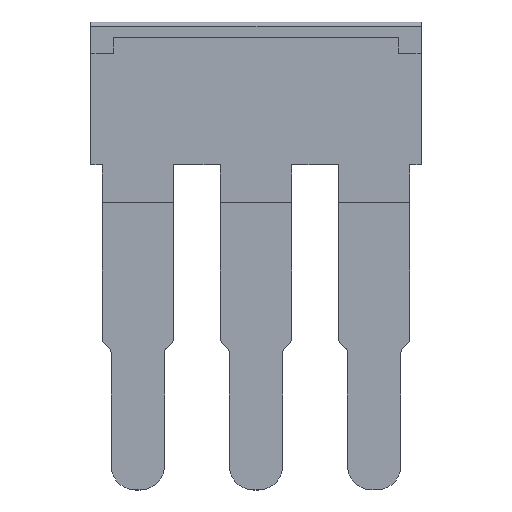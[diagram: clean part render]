
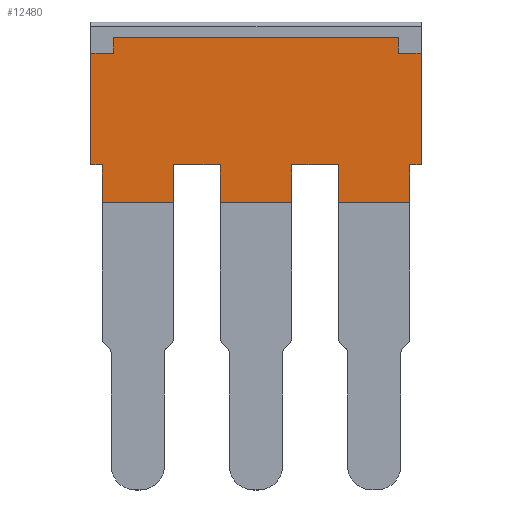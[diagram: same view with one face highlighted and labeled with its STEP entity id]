
A CAD part, top view. The second image highlights one B-rep face of the part: STEP entity #12480.
In plain terms, the highlighted planar face has unit normal (0, 0, 1) as drawn and (0, -1, 0) by its records, which use the part's own axes.
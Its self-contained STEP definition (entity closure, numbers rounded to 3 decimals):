
#1860=CARTESIAN_POINT('',(-31.85,-0.9,
-15.277));
#1870=VERTEX_POINT('',#1860);
#1900=CARTESIAN_POINT('',(-31.85,-0.9,0.));
#1910=DIRECTION('',(0.,0.,1.));
#1920=VECTOR('',#1910,1.);
#1930=LINE('',#1900,#1920);
#1940=CARTESIAN_POINT('',(-31.85,-0.9,
-20.277));
#1950=VERTEX_POINT('',#1940);
#1960=EDGE_CURVE('',#1950,#1870,#1930,.T.);
#5480=CARTESIAN_POINT('',(-28.15,-0.9,
-15.277));
#5490=VERTEX_POINT('',#5480);
#5520=CARTESIAN_POINT('',(-28.15,-0.9,0.));
#5530=DIRECTION('',(0.,0.,-1.));
#5540=VECTOR('',#5530,1.);
#5550=LINE('',#5520,#5540);
#5560=CARTESIAN_POINT('',(-28.15,-0.9,
-13.577));
#5570=VERTEX_POINT('',#5560);
#5580=EDGE_CURVE('',#5570,#5490,#5550,.T.);
#5970=CARTESIAN_POINT('',(-30.85,-0.9,
-20.277));
#5980=VERTEX_POINT('',#5970);
#6030=CARTESIAN_POINT('',(-30.85,-0.9,0.));
#6040=DIRECTION('',(0.,0.,-1.));
#6050=VECTOR('',#6040,1.);
#6060=LINE('',#6030,#6050);
#6070=CARTESIAN_POINT('',(-30.85,-0.9,
-20.977));
#6080=VERTEX_POINT('',#6070);
#6090=EDGE_CURVE('',#5980,#6080,#6060,.T.);
#7000=CARTESIAN_POINT('',(-18.05,-0.9,
-20.277));
#7010=VERTEX_POINT('',#7000);
#7060=CARTESIAN_POINT('',(-37.1,-0.9,
-20.277));
#7070=DIRECTION('',(-1.,0.,0.));
#7080=VECTOR('',#7070,1.);
#7090=LINE('',#7060,#7080);
#7100=CARTESIAN_POINT('',(-17.05,-0.9,
-20.277));
#7110=VERTEX_POINT('',#7100);
#7120=EDGE_CURVE('',#7110,#7010,#7090,.T.);
#7470=CARTESIAN_POINT('',(-31.35,-0.9,
-15.277));
#7480=VERTEX_POINT('',#7470);
#7680=CARTESIAN_POINT('',(-31.35,-0.9,
-13.577));
#7690=VERTEX_POINT('',#7680);
#7720=CARTESIAN_POINT('',(-31.35,-0.9,0.));
#7730=DIRECTION('',(0.,0.,1.));
#7740=VECTOR('',#7730,1.);
#7750=LINE('',#7720,#7740);
#7760=EDGE_CURVE('',#7480,#7690,#7750,.T.);
#8850=CARTESIAN_POINT('',(-22.85,-0.9,
-13.577));
#8860=VERTEX_POINT('',#8850);
#8910=CARTESIAN_POINT('',(-37.1,-0.9,
-13.577));
#8920=DIRECTION('',(-1.,0.,0.));
#8930=VECTOR('',#8920,1.);
#8940=LINE('',#8910,#8930);
#8950=CARTESIAN_POINT('',(-26.05,-0.9,
-13.577));
#8960=VERTEX_POINT('',#8950);
#8970=EDGE_CURVE('',#8860,#8960,#8940,.T.);
#9240=CARTESIAN_POINT('',(0.,-0.9,-13.577));
#9250=DIRECTION('',(-1.,0.,0.));
#9260=VECTOR('',#9250,1.);
#9270=LINE('',#9240,#9260);
#9280=EDGE_CURVE('',#5570,#7690,#9270,.T.);
#9540=CARTESIAN_POINT('',(0.,-0.9,-20.277));
#9550=DIRECTION('',(-1.,0.,0.));
#9560=VECTOR('',#9550,1.);
#9570=LINE('',#9540,#9560);
#9580=EDGE_CURVE('',#5980,#1950,#9570,.T.);
#10630=CARTESIAN_POINT('',(0.,-0.9,-15.277));
#10640=DIRECTION('',(1.,0.,0.));
#10650=VECTOR('',#10640,1.);
#10660=LINE('',#10630,#10650);
#10670=EDGE_CURVE('',#1870,#7480,#10660,.T.);
#11500=CARTESIAN_POINT('',(10.65,-0.9,-14.277));
#11510=DIRECTION('',(0.,1.,0.));
#11520=DIRECTION('',(0.,0.,1.));
#11530=AXIS2_PLACEMENT_3D('',#11500,#11510,#11520);
#11540=PLANE('',#11530);
#11550=ORIENTED_EDGE('',*,*,#6090,.T.);
#11560=ORIENTED_EDGE('',*,*,#9580,.F.);
#11570=ORIENTED_EDGE('',*,*,#1960,.F.);
#11580=ORIENTED_EDGE('',*,*,#10670,.F.);
#11590=ORIENTED_EDGE('',*,*,#7760,.F.);
#11600=ORIENTED_EDGE('',*,*,#9280,.T.);
#11610=ORIENTED_EDGE('',*,*,#5580,.F.);
#11620=CARTESIAN_POINT('',(0.,-0.9,-15.277));
#11630=DIRECTION('',(1.,0.,0.));
#11640=VECTOR('',#11630,1.);
#11650=LINE('',#11620,#11640);
#11660=CARTESIAN_POINT('',(-26.05,-0.9,
-15.277));
#11670=VERTEX_POINT('',#11660);
#11680=EDGE_CURVE('',#5490,#11670,#11650,.T.);
#11690=ORIENTED_EDGE('',*,*,#11680,.F.);
#11700=CARTESIAN_POINT('',(-26.05,-0.9,
0.));
#11710=DIRECTION('',(0.,0.,1.));
#11720=VECTOR('',#11710,1.);
#11730=LINE('',#11700,#11720);
#11740=EDGE_CURVE('',#11670,#8960,#11730,.T.);
#11750=ORIENTED_EDGE('',*,*,#11740,.F.);
#11760=ORIENTED_EDGE('',*,*,#8970,.T.);
#11770=CARTESIAN_POINT('',(-22.85,-0.9,
0.));
#11780=DIRECTION('',(0.,0.,-1.));
#11790=VECTOR('',#11780,1.);
#11800=LINE('',#11770,#11790);
#11810=CARTESIAN_POINT('',(-22.85,-0.9,
-15.277));
#11820=VERTEX_POINT('',#11810);
#11830=EDGE_CURVE('',#8860,#11820,#11800,.T.);
#11840=ORIENTED_EDGE('',*,*,#11830,.F.);
#11850=CARTESIAN_POINT('',(-37.1,-0.9,
-15.277));
#11860=DIRECTION('',(1.,0.,0.));
#11870=VECTOR('',#11860,1.);
#11880=LINE('',#11850,#11870);
#11890=CARTESIAN_POINT('',(-20.75,-0.9,
-15.277));
#11900=VERTEX_POINT('',#11890);
#11910=EDGE_CURVE('',#11820,#11900,#11880,.T.);
#11920=ORIENTED_EDGE('',*,*,#11910,.F.);
#11930=CARTESIAN_POINT('',(-20.75,-0.9,
0.));
#11940=DIRECTION('',(0.,0.,1.));
#11950=VECTOR('',#11940,1.);
#11960=LINE('',#11930,#11950);
#11970=CARTESIAN_POINT('',(-20.75,-0.9,
-13.577));
#11980=VERTEX_POINT('',#11970);
#11990=EDGE_CURVE('',#11900,#11980,#11960,.T.);
#12000=ORIENTED_EDGE('',*,*,#11990,.F.);
#12010=CARTESIAN_POINT('',(-37.1,-0.9,
-13.577));
#12020=DIRECTION('',(-1.,0.,0.));
#12030=VECTOR('',#12020,1.);
#12040=LINE('',#12010,#12030);
#12050=CARTESIAN_POINT('',(-17.55,-0.9,
-13.577));
#12060=VERTEX_POINT('',#12050);
#12070=EDGE_CURVE('',#12060,#11980,#12040,.T.);
#12080=ORIENTED_EDGE('',*,*,#12070,.T.);
#12090=CARTESIAN_POINT('',(-17.55,-0.9,
0.));
#12100=DIRECTION('',(0.,0.,-1.));
#12110=VECTOR('',#12100,1.);
#12120=LINE('',#12090,#12110);
#12130=CARTESIAN_POINT('',(-17.55,-0.9,
-15.277));
#12140=VERTEX_POINT('',#12130);
#12150=EDGE_CURVE('',#12060,#12140,#12120,.T.);
#12160=ORIENTED_EDGE('',*,*,#12150,.F.);
#12170=CARTESIAN_POINT('',(-37.1,-0.9,
-15.277));
#12180=DIRECTION('',(1.,0.,0.));
#12190=VECTOR('',#12180,1.);
#12200=LINE('',#12170,#12190);
#12210=CARTESIAN_POINT('',(-17.05,-0.9,
-15.277));
#12220=VERTEX_POINT('',#12210);
#12230=EDGE_CURVE('',#12140,#12220,#12200,.T.);
#12240=ORIENTED_EDGE('',*,*,#12230,.F.);
#12250=CARTESIAN_POINT('',(-17.05,-0.9,
0.));
#12260=DIRECTION('',(0.,0.,1.));
#12270=VECTOR('',#12260,1.);
#12280=LINE('',#12250,#12270);
#12290=EDGE_CURVE('',#7110,#12220,#12280,.T.);
#12300=ORIENTED_EDGE('',*,*,#12290,.T.);
#12310=ORIENTED_EDGE('',*,*,#7120,.F.);
#12320=CARTESIAN_POINT('',(-18.05,-0.9,
0.));
#12330=DIRECTION('',(0.,0.,-1.));
#12340=VECTOR('',#12330,1.);
#12350=LINE('',#12320,#12340);
#12360=CARTESIAN_POINT('',(-18.05,-0.9,
-20.977));
#12370=VERTEX_POINT('',#12360);
#12380=EDGE_CURVE('',#7010,#12370,#12350,.T.);
#12390=ORIENTED_EDGE('',*,*,#12380,.F.);
#12400=CARTESIAN_POINT('',(0.,-0.9,-20.977));
#12410=DIRECTION('',(-1.,0.,0.));
#12420=VECTOR('',#12410,1.);
#12430=LINE('',#12400,#12420);
#12440=EDGE_CURVE('',#12370,#6080,#12430,.T.);
#12450=ORIENTED_EDGE('',*,*,#12440,.F.);
#12460=EDGE_LOOP('',(#12450,#12390,#12310,#12300,#12240,#12160,#12080,
#12000,#11920,#11840,#11760,#11750,#11690,#11610,#11600,#11590,#11580,
#11570,#11560,#11550));
#12470=FACE_OUTER_BOUND('',#12460,.T.);
#12480=ADVANCED_FACE('',(#12470),#11540,.F.);
